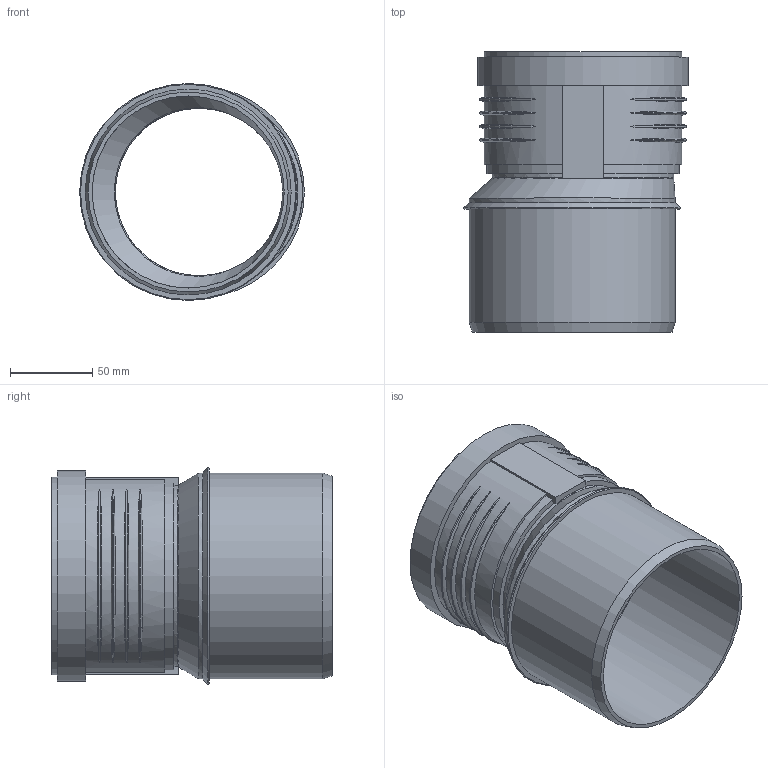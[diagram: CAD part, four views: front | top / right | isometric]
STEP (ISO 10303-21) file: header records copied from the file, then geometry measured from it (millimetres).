
FILE_DESCRIPTION(/* description */ (''),/* implementation_level */ '2;1');
FILE_NAME(/* name */ 'Z:\Geberit\Export\NewStep\390675.stp',/* time_stamp */ '2014-04-02T08:16:14+02:00',/* author */ ('ML'),/* organization */ (''),/* preprocessor_version */ 'ST-DEVELOPER v15.2',/* originating_system */ 'Autodesk Inventor 2014',/* authorisation */ '');
FILE_SCHEMA (('AUTOMOTIVE_DESIGN { 1 0 10303 214 3 1 1 }'));
Length unit declared in the file: millimetre
Products named in the file (3): 861619; 861404; 390675
Bounding box: 136.65 x 170.5 x 132 mm (x, y, z)
Volume: 274502.4 mm3; surface area: 149650 mm2
Topology: 2 solids, 2 shells, 68 faces, 162 edges, 112 vertices
Faces by surface type: torus 25, plane 20, cylinder 18, cone 3, bspline 2
Full cylindrical faces by diameter (mm): 101.8 x1, 103.2 x1, 110.2 x2, 113.3 x2, 116.8 x1, 120.3 x1, 121.1 x1, 125.2 x2, 128.1 x1
Entity records: 2726 total; most frequent: CARTESIAN_POINT 1117, DIRECTION 296, ORIENTED_EDGE 290, EDGE_CURVE 145, AXIS2_PLACEMENT_3D 130, VERTEX_POINT 111, EDGE_LOOP 102, STYLED_ITEM 68
